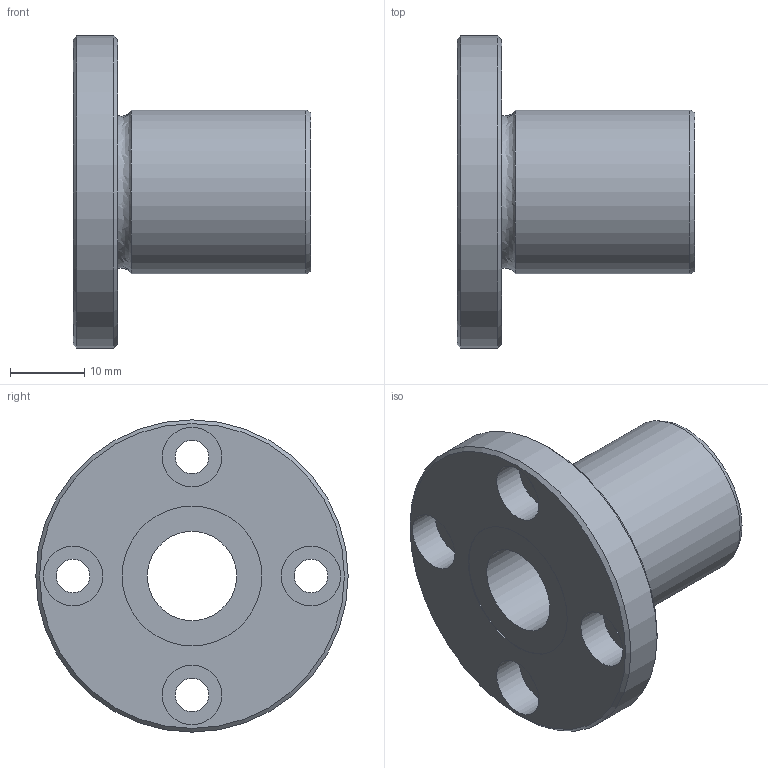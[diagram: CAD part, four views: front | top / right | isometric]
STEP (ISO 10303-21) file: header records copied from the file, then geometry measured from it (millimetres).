
FILE_DESCRIPTION((''),'2;1');
FILE_NAME('D:\製品 (図面)\カタログ用3D\リニアベアリング関連\STEP形式\LF\LF12.stp','2010-06-03T09:12:14',('Tsuchiya'),(''),'Autodesk Inventor 10','Autodesk Inventor 10','');
FILE_SCHEMA(('AUTOMOTIVE_DESIGN { 1 0 10303 214 1 1 1 1 }'));
Length unit declared in the file: millimetre
Products named in the file (1): LF12
Bounding box: 32 x 42 x 42 mm (x, y, z)
Volume: 13454.6 mm3; surface area: 6709.9 mm2
Topology: 1 solids, 1 shells, 26 faces, 47 edges, 30 vertices
Faces by surface type: cylinder 13, plane 9, cone 2, torus 1, bspline 1
Full cylindrical faces by diameter (mm): 4.5 x4, 8 x4, 12 x1, 18.8 x2, 22 x1, 42 x1
Entity records: 665 total; most frequent: CARTESIAN_POINT 149, DIRECTION 112, ORIENTED_EDGE 60, EDGE_LOOP 60, AXIS2_PLACEMENT_3D 56, FACE_BOUND 34, VERTEX_POINT 30, CIRCLE 30
